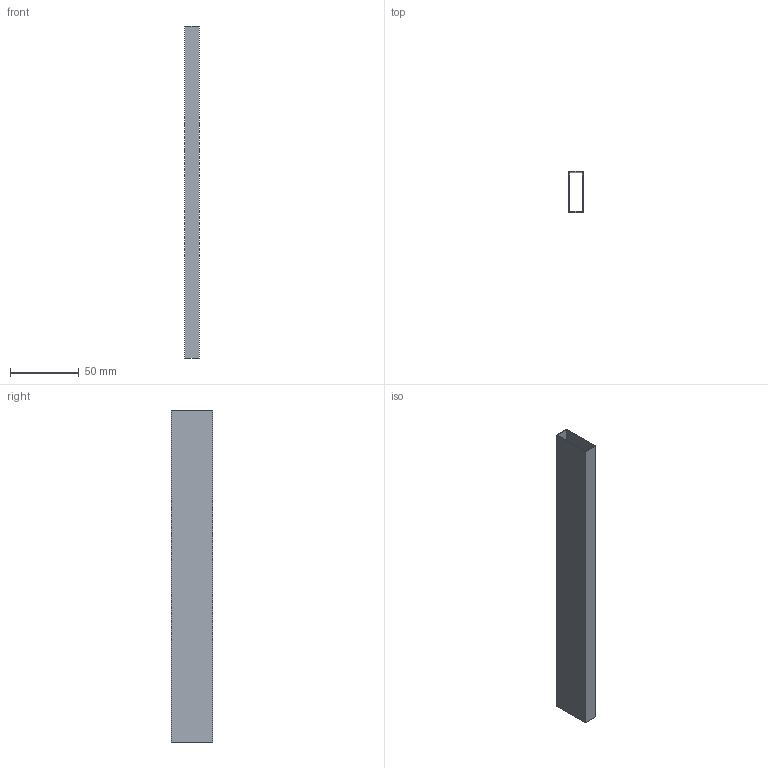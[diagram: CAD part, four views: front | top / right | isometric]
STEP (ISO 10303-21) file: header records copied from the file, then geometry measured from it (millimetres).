
FILE_DESCRIPTION (( 'STEP AP214' ), '1' );
FILE_NAME ('_DWD XP Rechteckreling NL275.step', '2010-07-14T13:27:50', ( 'grass' ), ( '' ), 'SwSTEP 2.0', 'SolidWorks 2010', '' );
FILE_SCHEMA (( 'AUTOMOTIVE_DESIGN' ));
Length unit declared in the file: millimetre
Products named in the file (1): _DWD XP Rechteckreling NL275
Bounding box: 10.5 x 30 x 242.1 mm (x, y, z)
Volume: 11417.4 mm3; surface area: 38152.4 mm2
Topology: 1 solids, 1 shells, 10 faces, 24 edges, 16 vertices
Faces by surface type: plane 10
Entity records: 326 total; most frequent: CARTESIAN_POINT 51, ORIENTED_EDGE 48, DIRECTION 46, EDGE_CURVE 24, VECTOR 24, LINE 24, VERTEX_POINT 16, EDGE_LOOP 12
